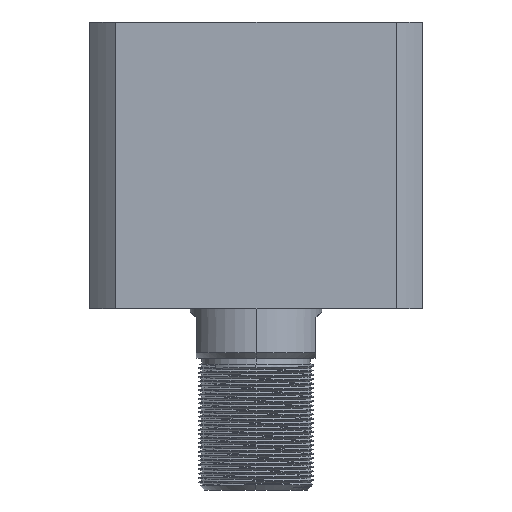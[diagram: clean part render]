
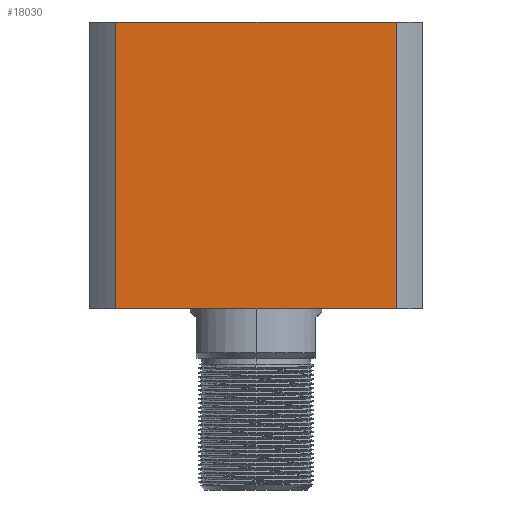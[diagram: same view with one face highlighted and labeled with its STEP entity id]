
A CAD part, front view. The second image highlights one B-rep face of the part: STEP entity #18030.
In plain terms, the highlighted planar face has unit normal (0, -1, 0) as drawn and (-1, 0, 0) by its records, which use the part's own axes.
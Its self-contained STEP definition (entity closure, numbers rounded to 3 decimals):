
#63 = CARTESIAN_POINT ( 'NONE',  ( -57., 47.971, 98. ) ) ;
#2670 = DIRECTION ( 'NONE',  ( 0., -1., 0. ) ) ;
#2750 = VERTEX_POINT ( 'NONE', #8031 ) ;
#3177 = EDGE_LOOP ( 'NONE', ( #19657, #6197, #13933, #10688 ) ) ;
#4057 = FACE_OUTER_BOUND ( 'NONE', #3177, .T. ) ;
#4263 = VECTOR ( 'NONE', #2670, 1000. ) ;
#4714 = CARTESIAN_POINT ( 'NONE',  ( -57., 57., 98. ) ) ;
#4790 = CARTESIAN_POINT ( 'NONE',  ( -57., -47.971, 0. ) ) ;
#4793 = LINE ( 'NONE', #4714, #12734 ) ;
#6197 = ORIENTED_EDGE ( 'NONE', *, *, #14804, .T. ) ;
#6248 = CARTESIAN_POINT ( 'NONE',  ( -57., 57., 98. ) ) ;
#6638 = AXIS2_PLACEMENT_3D ( 'NONE', #6248, #7893, #18777 ) ;
#7496 = CARTESIAN_POINT ( 'NONE',  ( -57., 57., 0. ) ) ;
#7498 = CARTESIAN_POINT ( 'NONE',  ( -57., -47.971, -202. ) ) ;
#7893 = DIRECTION ( 'NONE',  ( 1., 0., 0. ) ) ;
#8031 = CARTESIAN_POINT ( 'NONE',  ( -57., 47.971, 0. ) ) ;
#8238 = VERTEX_POINT ( 'NONE', #14418 ) ;
#8579 = LINE ( 'NONE', #7496, #4263 ) ;
#8813 = EDGE_CURVE ( 'NONE', #8238, #13678, #8823, .T. ) ;
#8823 = LINE ( 'NONE', #7498, #16145 ) ;
#8894 = CARTESIAN_POINT ( 'NONE',  ( -57., 47.971, -202. ) ) ;
#9263 = DIRECTION ( 'NONE',  ( 0., 0., -1. ) ) ;
#10114 = EDGE_CURVE ( 'NONE', #20237, #8238, #4793, .T. ) ;
#10463 = DIRECTION ( 'NONE',  ( 0., 0., 1. ) ) ;
#10688 = ORIENTED_EDGE ( 'NONE', *, *, #10114, .F. ) ;
#12734 = VECTOR ( 'NONE', #17329, 1000. ) ;
#13678 = VERTEX_POINT ( 'NONE', #4790 ) ;
#13933 = ORIENTED_EDGE ( 'NONE', *, *, #8813, .F. ) ;
#14025 = PLANE ( 'NONE',  #6638 ) ;
#14418 = CARTESIAN_POINT ( 'NONE',  ( -57., -47.971, 98. ) ) ;
#14804 = EDGE_CURVE ( 'NONE', #2750, #13678, #8579, .T. ) ;
#15171 = LINE ( 'NONE', #8894, #18817 ) ;
#16145 = VECTOR ( 'NONE', #9263, 1000. ) ;
#17329 = DIRECTION ( 'NONE',  ( 0., -1., 0. ) ) ;
#18030 = ADVANCED_FACE ( 'NONE', ( #4057 ), #14025, .F. ) ;
#18777 = DIRECTION ( 'NONE',  ( 0., 1., 0. ) ) ;
#18817 = VECTOR ( 'NONE', #10463, 1000. ) ;
#19657 = ORIENTED_EDGE ( 'NONE', *, *, #19725, .F. ) ;
#19725 = EDGE_CURVE ( 'NONE', #2750, #20237, #15171, .T. ) ;
#20237 = VERTEX_POINT ( 'NONE', #63 ) ;
